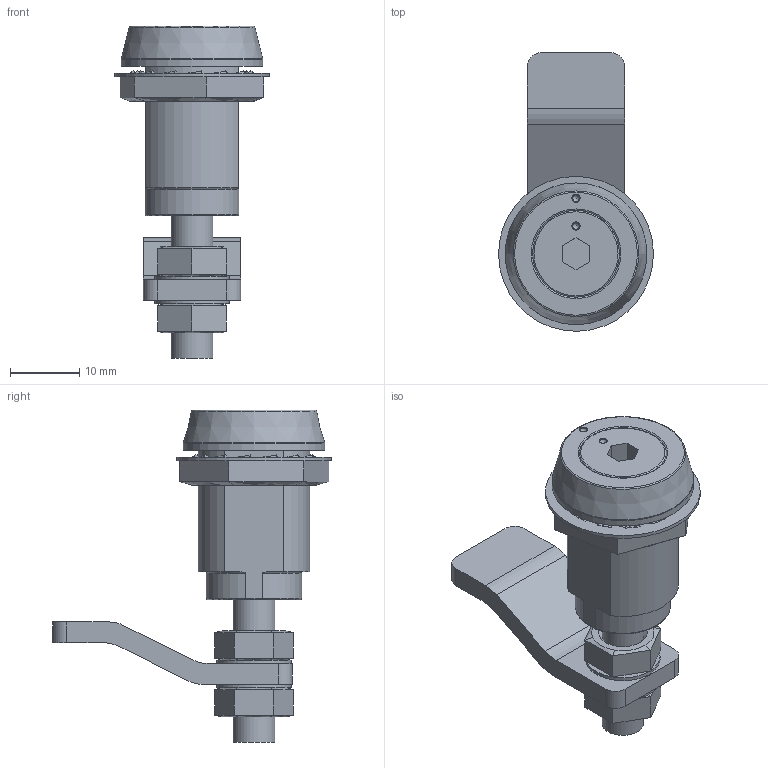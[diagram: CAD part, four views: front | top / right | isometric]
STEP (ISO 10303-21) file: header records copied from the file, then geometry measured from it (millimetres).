
FILE_DESCRIPTION(/* description */ (''),/* implementation_level */ '2;1');
FILE_NAME(/* name */ '\\NAS\db20\KC-61\DR_KC-61.stp',/* time_stamp */ '2017-08-03T08:42:53+09:00',/* author */ ('user'),/* organization */ (''),/* preprocessor_version */ 'ST-DEVELOPER v15.6',/* originating_system */ 'Autodesk Inventor 2015',/* authorisation */ '');
FILE_SCHEMA (('AUTOMOTIVE_DESIGN { 1 0 10303 214 3 1 1 }'));
Length unit declared in the file: millimetre
Products named in the file (7): DR_KC-61; DR_KC-61-C; DR_M6NUT; DR_M6와셔; DR_M16NUT; DR_M16와셔
Bounding box: 22.29 x 40.15 x 47.8 mm (x, y, z)
Volume: 8452.2 mm3; surface area: 6215.5 mm2
Topology: 9 solids, 9 shells, 799 faces, 2073 edges, 1258 vertices
Faces by surface type: plane 378, cylinder 276, bspline 126, torus 10, cone 7, sphere 2
Full cylindrical faces by diameter (mm): 6 x3, 10.7 x2, 12.5 x2, 16 x1, 20.4 x1, 22.3 x1
Entity records: 22398 total; most frequent: CARTESIAN_POINT 5704, ORIENTED_EDGE 3520, DIRECTION 3333, EDGE_CURVE 1760, AXIS2_PLACEMENT_3D 1135, VERTEX_POINT 1078, LINE 1063, VECTOR 1063
